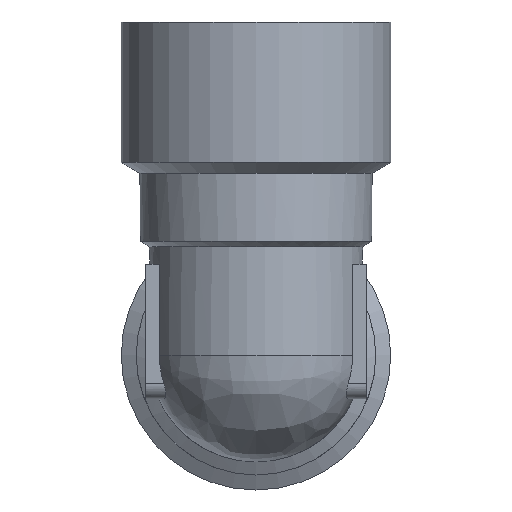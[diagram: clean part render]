
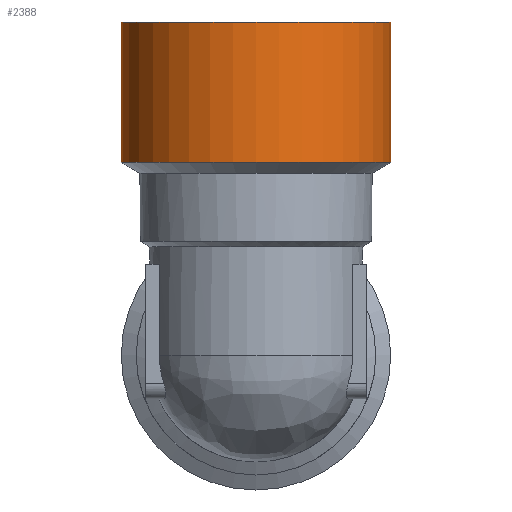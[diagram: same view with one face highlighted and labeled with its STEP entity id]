
A CAD part, front view. The second image highlights one B-rep face of the part: STEP entity #2388.
In plain terms, the highlighted cylindrical face has radius 18 mm (diameter 36 mm), a full revolution.
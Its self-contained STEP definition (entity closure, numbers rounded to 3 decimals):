
#75=CYLINDRICAL_SURFACE('',#2556,18.);
#115=FACE_OUTER_BOUND('',#249,.T.);
#249=EDGE_LOOP('',(#1610,#1611,#1612,#1613,#1614,#1615));
#410=CIRCLE('',#2557,18.);
#411=CIRCLE('',#2558,18.);
#412=CIRCLE('',#2559,18.);
#413=CIRCLE('',#2560,18.);
#521=LINE('',#3622,#690);
#690=VECTOR('',#2829,18.);
#958=VERTEX_POINT('',#3617);
#959=VERTEX_POINT('',#3618);
#960=VERTEX_POINT('',#3621);
#961=VERTEX_POINT('',#3623);
#1224=EDGE_CURVE('',#958,#959,#410,.T.);
#1225=EDGE_CURVE('',#959,#958,#411,.T.);
#1226=EDGE_CURVE('',#959,#960,#521,.T.);
#1227=EDGE_CURVE('',#960,#961,#412,.T.);
#1228=EDGE_CURVE('',#961,#960,#413,.T.);
#1610=ORIENTED_EDGE('',*,*,#1224,.F.);
#1611=ORIENTED_EDGE('',*,*,#1225,.F.);
#1612=ORIENTED_EDGE('',*,*,#1226,.T.);
#1613=ORIENTED_EDGE('',*,*,#1227,.T.);
#1614=ORIENTED_EDGE('',*,*,#1228,.T.);
#1615=ORIENTED_EDGE('',*,*,#1226,.F.);
#2388=ADVANCED_FACE('',(#115),#75,.T.);
#2556=AXIS2_PLACEMENT_3D('',#3616,#2823,#2824);
#2557=AXIS2_PLACEMENT_3D('',#3619,#2825,#2826);
#2558=AXIS2_PLACEMENT_3D('',#3620,#2827,#2828);
#2559=AXIS2_PLACEMENT_3D('',#3624,#2830,#2831);
#2560=AXIS2_PLACEMENT_3D('',#3625,#2832,#2833);
#2823=DIRECTION('center_axis',(0.,0.,-1.));
#2824=DIRECTION('ref_axis',(0.,1.,0.));
#2825=DIRECTION('center_axis',(0.,0.,-1.));
#2826=DIRECTION('ref_axis',(1.,0.,0.));
#2827=DIRECTION('center_axis',(0.,0.,-1.));
#2828=DIRECTION('ref_axis',(1.,0.,0.));
#2829=DIRECTION('',(0.,0.,1.));
#2830=DIRECTION('center_axis',(0.,0.,-1.));
#2831=DIRECTION('ref_axis',(1.,0.,0.));
#2832=DIRECTION('center_axis',(0.,0.,-1.));
#2833=DIRECTION('ref_axis',(1.,0.,0.));
#3616=CARTESIAN_POINT('Origin',(0.,-55.,35.122));
#3617=CARTESIAN_POINT('',(0.,-37.,25.743));
#3618=CARTESIAN_POINT('',(0.,-73.,25.743));
#3619=CARTESIAN_POINT('Origin',(0.,-55.,25.743));
#3620=CARTESIAN_POINT('Origin',(0.,-55.,25.743));
#3621=CARTESIAN_POINT('',(0.,-73.,44.5));
#3622=CARTESIAN_POINT('',(0.,-73.,35.122));
#3623=CARTESIAN_POINT('',(0.,-37.,44.5));
#3624=CARTESIAN_POINT('Origin',(0.,-55.,44.5));
#3625=CARTESIAN_POINT('Origin',(0.,-55.,44.5));
